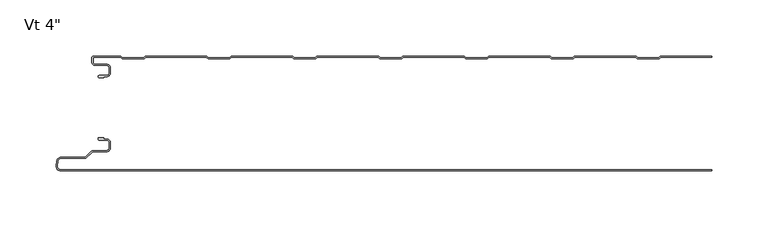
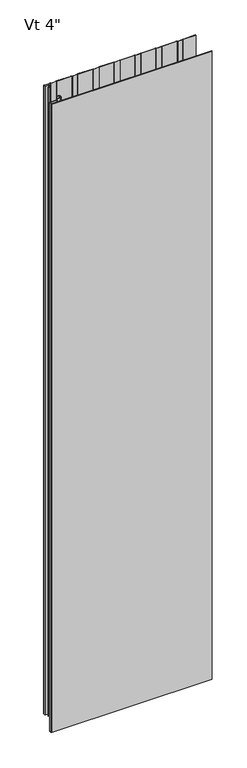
"""IFC4 building model written with IfcOpenShell, lengths in millimetres: plate geometry."""

import ifcopenshell
import ifcopenshell.guid

model = None  # the IFC model being written
_history = None  # IfcOwnerHistory: only IFC2X3 demands one
_inside = {}  # id of a spatial element -> (the spatial element, [elements in it])
_under = {}  # id of a project, library or spatial element -> (it, [spatial elements below it])
_declared = {}  # id of a project -> (the project, [libraries it declares])
_typed = {}  # id of a type object -> (the type object, [elements of that type])
_made_of = {}  # id of a material, layer set ... -> (it, [elements and type objects made of it])


def new_model(schema):
    """Start an empty IFC model of exactly this schema.

    Asked for "IFC4X3", IfcOpenShell would pick the latest addendum, in which some entities
    have other attributes; the version numbers below select the first issue.
    IFC2X3 requires an IfcOwnerHistory on every rooted entity: one is made here for all.
    """
    global model, _history
    if schema == "IFC4X3":
        model = ifcopenshell.file(schema_version=(4, 3, 0, 0))
    else:
        model = ifcopenshell.file(schema=schema)
    _inside.clear()
    _under.clear()
    _declared.clear()
    _typed.clear()
    _made_of.clear()
    _history = None
    if model.schema == "IFC2X3":
        org = make("IfcOrganization", Name="unknown")
        user = make(
            "IfcPersonAndOrganization",
            ThePerson=make("IfcPerson", FamilyName="unknown"),
            TheOrganization=org,
        )
        app = make(
            "IfcApplication",
            ApplicationDeveloper=org,
            Version="unknown",
            ApplicationFullName="unknown",
            ApplicationIdentifier="unknown",
        )
        _history = make(
            "IfcOwnerHistory",
            OwningUser=user,
            OwningApplication=app,
            ChangeAction="ADDED",
            CreationDate=0,
        )
    return model


def make(cls, **values):
    """One entity of the class cls with the attributes given. An attribute that is None is left unset."""
    return model.create_entity(
        cls, **{name: value for name, value in values.items() if value is not None}
    )


def rooted(cls, **values):
    """An entity with a GlobalId (a new one), such as an element, a storey or a relation."""
    return make(cls, GlobalId=ifcopenshell.guid.new(), OwnerHistory=_history, **values)


def si_unit(unit_type, name, prefix=None):
    """IfcSIUnit, for example si_unit("LENGTHUNIT", "METRE", prefix="MILLI")."""
    return make("IfcSIUnit", UnitType=unit_type, Prefix=prefix, Name=name)


def assignment(units):
    """IfcUnitAssignment: the units of a project."""
    return None if units is None else make("IfcUnitAssignment", Units=units)


def point(xyz):
    """IfcCartesianPoint."""
    return None if xyz is None else make("IfcCartesianPoint", Coordinates=xyz)


def direction(xyz):
    """IfcDirection."""
    return None if xyz is None else make("IfcDirection", DirectionRatios=xyz)


def frame(location, z_axis=None, x_axis=None):
    """IfcAxis2Placement3D, a coordinate frame: its origin and axes. An axis left out is left unset."""
    return make(
        "IfcAxis2Placement3D",
        Location=point(location),
        Axis=direction(z_axis),
        RefDirection=direction(x_axis),
    )


def frame_2d(location, x_axis=None):
    """IfcAxis2Placement2D, a coordinate frame in the plane: its origin and x axis."""
    return make(
        "IfcAxis2Placement2D", Location=point(location), RefDirection=direction(x_axis)
    )


def origin():
    """The frame at (0, 0, 0) with its axes left unset."""
    return frame((0.0, 0.0, 0.0))


def origin_with_axes():
    """The frame at (0, 0, 0) with the z axis (0, 0, 1) and the x axis (1, 0, 0) written out."""
    return frame((0.0, 0.0, 0.0), z_axis=(0.0, 0.0, 1.0), x_axis=(1.0, 0.0, 0.0))


def place(relative_to, where):
    """IfcLocalPlacement: puts the frame where relative to a parent placement (None: the world)."""
    return make(
        "IfcLocalPlacement", PlacementRelTo=relative_to, RelativePlacement=where
    )


def context(
    kind, dimensions, precision=None, world=None, true_north=None, identifier=None
):
    """IfcGeometricRepresentationContext, for example the 3D "Model" context."""
    return make(
        "IfcGeometricRepresentationContext",
        ContextIdentifier=identifier,
        ContextType=kind,
        CoordinateSpaceDimension=dimensions,
        Precision=precision,
        WorldCoordinateSystem=world,
        TrueNorth=true_north,
    )


def project(units=None, contexts=None):
    """IfcProject with its units and contexts."""
    return rooted(
        "IfcProject",
        Name="project",
        RepresentationContexts=contexts,
        UnitsInContext=assignment(units),
    )


def spatial(cls, under=None, at=None, **own):
    """A site, building, storey or space (cls), placed at a placement, below another one or the project."""
    s = rooted(cls, ObjectPlacement=at, **own)
    if under is not None:
        _under.setdefault(under.id(), (under, []))[1].append(s)
    return s


def polyline(points):
    """IfcPolyline through the points."""
    return make("IfcPolyline", Points=[point(p) for p in points])


def circle_curve(where, radius):
    """IfcCircle in the frame where."""
    return make("IfcCircle", Position=where, Radius=radius)


def trimmed(basis, trim1, trim2, sense, master):
    """IfcTrimmedCurve: the piece of a basis curve between two trims."""
    return make(
        "IfcTrimmedCurve",
        BasisCurve=basis,
        Trim1=trim1,
        Trim2=trim2,
        SenseAgreement=sense,
        MasterRepresentation=master,
    )


def segment(curve, same_sense, transition):
    """IfcCompositeCurveSegment."""
    return make(
        "IfcCompositeCurveSegment",
        Transition=transition,
        SameSense=same_sense,
        ParentCurve=curve,
    )


def composite_curve(segments, self_intersect=None):
    """IfcCompositeCurve: segments joined end to end."""
    return make("IfcCompositeCurve", Segments=segments, SelfIntersect=self_intersect)


def outline(outer, holes=None, kind="AREA"):
    """IfcArbitraryClosedProfileDef: a profile drawn as a closed curve; with holes, ...WithVoids."""
    if holes is None:
        return make("IfcArbitraryClosedProfileDef", ProfileType=kind, OuterCurve=outer)
    return make(
        "IfcArbitraryProfileDefWithVoids",
        ProfileType=kind,
        OuterCurve=outer,
        InnerCurves=holes,
    )


def extrude(swept, where, along, depth):
    """IfcExtrudedAreaSolid: the profile swept, set in the frame where, extruded along a direction by depth."""
    return make(
        "IfcExtrudedAreaSolid",
        SweptArea=swept,
        Position=where,
        ExtrudedDirection=direction(along),
        Depth=depth,
    )


def shape(context_of_items, identifier, shape_type, items):
    """IfcShapeRepresentation: the items that make up one representation, for example the "Body"."""
    return make(
        "IfcShapeRepresentation",
        ContextOfItems=context_of_items,
        RepresentationIdentifier=identifier,
        RepresentationType=shape_type,
        Items=items,
    )


def source(mapping_origin, context_of_items, identifier, shape_type, items):
    """IfcRepresentationMap: a shape defined once, which mapped items show again and again."""
    return make(
        "IfcRepresentationMap",
        MappingOrigin=mapping_origin,
        MappedRepresentation=shape(context_of_items, identifier, shape_type, items),
    )


def transform(
    local_origin,
    x_axis=None,
    y_axis=None,
    z_axis=None,
    scale=None,
    scale2=None,
    scale3=None,
    uniform=True,
):
    """IfcCartesianTransformationOperator3D, or its non-uniform kind. x_axis, y_axis, z_axis: its Axis1, 2, 3."""
    if uniform:
        return make(
            "IfcCartesianTransformationOperator3D",
            Axis1=direction(x_axis),
            Axis2=direction(y_axis),
            LocalOrigin=point(local_origin),
            Scale=scale,
            Axis3=direction(z_axis),
        )
    return make(
        "IfcCartesianTransformationOperator3DnonUniform",
        Axis1=direction(x_axis),
        Axis2=direction(y_axis),
        LocalOrigin=point(local_origin),
        Scale=scale,
        Axis3=direction(z_axis),
        Scale2=scale2,
        Scale3=scale3,
    )


def mapped(mapping_source, mapping_target):
    """IfcMappedItem: shows the shape of a source again, moved by a transform."""
    return make(
        "IfcMappedItem", MappingSource=mapping_source, MappingTarget=mapping_target
    )


def made_of(thing, what):
    """Note that an element or type object is made of a material, layer set ...; save() writes the relation."""
    if what is not None:
        _made_of.setdefault(what.id(), (what, []))[1].append(thing)
    return thing


def element(
    cls,
    number,
    at=None,
    inside=None,
    cuts=None,
    type_object=None,
    material=None,
    context=None,
    identifier="Body",
    shape_type=None,
    held_by="IfcProductDefinitionShape",
    body=None,
    shapes=None,
    **own,
):
    """One element of the class cls, such as IfcWall. Its Tag is "e" and its number.

    at: its placement. inside: the storey or other place that contains it. cuts: it is an
    opening in that element (IfcRelVoidsElement). A single representation is given by context,
    identifier, shape_type and body (its items); several are given by shapes. held_by: the class
    of the entity that holds the representations. save() writes the other relations.
    """
    e = rooted(cls, Tag="e%d" % number, ObjectPlacement=at, **own)
    if body is not None:
        shapes = [shape(context, identifier, shape_type, body)]
    if shapes is not None:
        e.Representation = make(held_by, Representations=shapes)
    if inside is not None:
        _inside.setdefault(inside.id(), (inside, []))[1].append(e)
    if cuts is not None:
        rooted(
            "IfcRelVoidsElement", RelatingBuildingElement=cuts, RelatedOpeningElement=e
        )
    if type_object is not None:
        _typed.setdefault(type_object.id(), (type_object, []))[1].append(e)
    return made_of(e, material)


def aggregate(whole, parts):
    """IfcRelAggregates: a whole, such as a stair, and the parts it consists of."""
    return rooted("IfcRelAggregates", RelatingObject=whole, RelatedObjects=parts)


def save(model, path):
    """Write the relations noted so far, then the file.

    IfcRelAggregates (storeys below a building ...), IfcRelContainedInSpatialStructure (elements
    in a storey), IfcRelDefinesByType, IfcRelAssociatesMaterial and IfcRelDeclares: one each for
    every whole, place, type object, material and project.
    """
    for whole, parts in _under.values():
        aggregate(whole, parts)
    for where, things in _inside.values():
        rooted(
            "IfcRelContainedInSpatialStructure",
            RelatedElements=things,
            RelatingStructure=where,
        )
    for kind, things in _typed.values():
        rooted("IfcRelDefinesByType", RelatedObjects=things, RelatingType=kind)
    for what, things in _made_of.values():
        rooted("IfcRelAssociatesMaterial", RelatedObjects=things, RelatingMaterial=what)
    for by, libraries in _declared.values():
        rooted("IfcRelDeclares", RelatingContext=by, RelatedDefinitions=libraries)
    model.write(path)


def plane_surface(at):
    """IfcPlane: the flat surface through the origin of the frame at, square to its z axis."""
    return make("IfcPlane", Position=at)


def cylinder_surface(at, radius):
    """IfcCylindricalSurface: all points at the distance radius from the z axis of the frame at."""
    return make("IfcCylindricalSurface", Position=at, Radius=radius)


def revolved_surface(curve, axis_point, axis_direction):
    """IfcSurfaceOfRevolution: the curve turned about the line through axis_point along axis_direction."""
    return make(
        "IfcSurfaceOfRevolution",
        SweptCurve=make("IfcArbitraryOpenProfileDef", ProfileType="CURVE", Curve=curve),
        AxisPosition=make("IfcAxis1Placement", Location=point(axis_point), Axis=direction(axis_direction)),
    )


def advanced_brep(points, edges, surfaces, faces):
    """IfcAdvancedBrep: a solid bounded by faces that lie on surfaces and meet in shared edges.

    An edge is (start, end): straight between two places in points (the first is 0);
    or (start, end, curve); or (start, end, curve, False) where it runs against its curve.
    A face is (place in surfaces, loops), or (place, loops, False) where it looks against
    its surface's normal. A loop lists edges by number (the first is 1), with a minus sign
    where the edge is run from its end to its start. The first loop is the outer one.
    """
    corners = [point(p) for p in points]
    vertices = [make("IfcVertexPoint", VertexGeometry=c) for c in corners]
    made = []
    for start, end, *more in edges:
        made.append(
            make(
                "IfcEdgeCurve",
                EdgeStart=vertices[start],
                EdgeEnd=vertices[end],
                EdgeGeometry=more[0] if more else make("IfcPolyline", Points=[corners[start], corners[end]]),
                SameSense=more[1] if len(more) > 1 else True,
            )
        )
    hull = []
    for where, loops, *sense in faces:
        bounds = []
        for j, loop in enumerate(loops):
            ring = [make("IfcOrientedEdge", EdgeElement=made[abs(k) - 1], Orientation=k > 0) for k in loop]
            bounds.append(
                make(
                    "IfcFaceOuterBound" if j == 0 else "IfcFaceBound",
                    Bound=make("IfcEdgeLoop", EdgeList=ring),
                    Orientation=True,
                )
            )
        hull.append(make("IfcAdvancedFace", Bounds=bounds, FaceSurface=surfaces[where], SameSense=sense[0] if sense else True))
    return make("IfcAdvancedBrep", Outer=make("IfcClosedShell", CfsFaces=hull))


def plate_67e55ae4(model_context):
    return source(origin(), model_context, "Body", "SolidModel", [
        advanced_brep(
        [(-270.768691, -17.0015159, 2400.0), (-271.7686883, -18.0015191, 2400.0), (-270.768691, -19.0015105, 2400.0), (-266.7684874, -19.0015105, 2400.0), (-266.7684874, -18.0015159, 2400.0), (-264.0762776, -18.0015159, 2400.0), (-260.7762819, -14.7015202, 2400.0), (-260.7762819, -10.301529, 2400.0), (-264.0762774, -7.0015335, 2400.0), (-274.4962563, -7.0015335, 2400.0), (-276.2662505, -5.2315393, 2400.0), (-276.2662505, -0.9999916, 2400.0), (-251.7659738, -0.9999916, 2400.0), (-250.3803312, -2.2002307, 2400.0), (-231.0051649, -2.2002307, 2400.0), (-229.619532, -1.0, 2400.0), (-175.5661166, -1.0, 2400.0), (-174.1804836, -2.2002307, 2400.0), (-154.8053173, -2.2002307, 2400.0), (-153.4196844, -1.0, 2400.0), (-99.366269, -1.0, 2400.0), (-97.980636, -2.2002307, 2400.0), (-78.6054697, -2.2002307, 2400.0), (-77.2198368, -1.0, 2400.0), (-23.1664214, -1.0, 2400.0), (-21.7807884, -2.2002307, 2400.0), (-2.4056221, -2.2002307, 2400.0), (-1.0199892, -1.0, 2400.0), (53.0334262, -1.0, 2400.0), (54.4190592, -2.2002307, 2400.0), (73.7942255, -2.2002307, 2400.0), (75.1798584, -1.0, 2400.0), (129.2332738, -1.0, 2400.0), (130.6189068, -2.2002307, 2400.0), (149.9940731, -2.2002307, 2400.0), (151.379706, -1.0, 2400.0), (205.4331214, -1.0, 2400.0), (206.8187544, -2.2002307, 2400.0), (226.1939207, -2.2002307, 2400.0), (227.5795536, -1.0, 2400.0), (272.7999998, -1.0, 2400.0), (272.7999998, 0.0, 2400.0), (227.7287048, 0.0, 2400.0), (226.8120879, -0.3417885, 2400.0), (225.8210403, -1.2002307, 2400.0), (207.1916348, -1.2002307, 2400.0), (206.2005872, -0.3417885, 2400.0), (205.2839703, 0.0, 2400.0), (151.5288572, 0.0, 2400.0), (150.6122403, -0.3417885, 2400.0), (149.6211927, -1.2002307, 2400.0), (130.9917872, -1.2002307, 2400.0), (130.0007396, -0.3417885, 2400.0), (129.0841227, 0.0, 2400.0), (75.3290096, 0.0, 2400.0), (74.4123927, -0.3417885, 2400.0), (73.4213451, -1.2002307, 2400.0), (54.7919396, -1.2002307, 2400.0), (53.800892, -0.3417885, 2400.0), (52.8842751, 0.0, 2400.0), (-0.870838, 0.0, 2400.0), (-1.7874549, -0.3417885, 2400.0), (-2.7785025, -1.2002307, 2400.0), (-21.407908, -1.2002307, 2400.0), (-22.3989556, -0.3417885, 2400.0), (-23.3155725, 0.0, 2400.0), (-77.0706856, 0.0, 2400.0), (-77.9873025, -0.3417885, 2400.0), (-78.9783501, -1.2002307, 2400.0), (-97.6077556, -1.2002307, 2400.0), (-98.5988032, -0.3417885, 2400.0), (-99.5154201, 0.0, 2400.0), (-153.2705332, 0.0, 2400.0), (-154.1871501, -0.3417885, 2400.0), (-155.1781977, -1.2002307, 2400.0), (-173.8076032, -1.2002307, 2400.0), (-174.7986508, -0.3417885, 2400.0), (-175.7152677, 0.0, 2400.0), (-229.4703808, 0.0, 2400.0), (-230.3869977, -0.3417885, 2400.0), (-231.3780453, -1.2002307, 2400.0), (-250.0074508, -1.2002307, 2400.0), (-250.9984984, -0.3417885, 2400.0), (-251.9152067, 0.0, 2400.0), (-275.8662543, 8.4e-06, 2400.0), (-277.2662505, -1.3999878, 2400.0), (-277.2662505, -5.2315393, 2400.0), (-274.4962563, -8.0015335, 2400.0), (-264.0762774, -8.0015335, 2400.0), (-261.7762819, -10.301529, 2400.0), (-261.7762819, -14.7015202, 2400.0), (-264.0762776, -17.0015159, 2400.0), (-270.768691, -17.0015159, 0.0), (-264.0762776, -17.0015159, 0.0), (-261.7762819, -14.7015202, 0.0), (-261.7762819, -10.301529, 0.0), (-264.0762774, -8.0015335, 0.0), (-274.4962563, -8.0015335, 0.0), (-277.2662505, -5.2315393, 0.0), (-277.2662505, -1.3999878, 0.0), (-275.8662543, 8.4e-06, 0.0), (-251.9151153, 8.4e-06, 0.0), (-250.9984984, -0.3417885, 0.0), (-250.0074508, -1.2002307, 0.0), (-231.3780453, -1.2002307, 0.0), (-230.3869977, -0.3417885, 0.0), (-229.4703808, 0.0, 0.0), (-175.7152677, 0.0, 0.0), (-174.7986508, -0.3417885, 0.0), (-173.8076032, -1.2002307, 0.0), (-155.1781977, -1.2002307, 0.0), (-154.1871501, -0.3417885, 0.0), (-153.2705332, 0.0, 0.0), (-99.5154201, 0.0, 0.0), (-98.5988032, -0.3417885, 0.0), (-97.6077556, -1.2002307, 0.0), (-78.9783501, -1.2002307, 0.0), (-77.9873025, -0.3417885, 0.0), (-77.0706856, 0.0, 0.0), (-23.3155725, 0.0, 0.0), (-22.3989556, -0.3417885, 0.0), (-21.407908, -1.2002307, 0.0), (-2.7785025, -1.2002307, 0.0), (-1.7874549, -0.3417885, 0.0), (-0.870838, 0.0, 0.0), (52.8842751, 0.0, 0.0), (53.800892, -0.3417885, 0.0), (54.7919396, -1.2002307, 0.0), (73.4213451, -1.2002307, 0.0), (74.4123927, -0.3417885, 0.0), (75.3290096, 0.0, 0.0), (129.0841227, 0.0, 0.0), (130.0007396, -0.3417885, 0.0), (130.9917872, -1.2002307, 0.0), (149.6211927, -1.2002307, 0.0), (150.6122403, -0.3417885, 0.0), (151.5288572, 0.0, 0.0), (205.2839703, 0.0, 0.0), (206.2005872, -0.3417885, 0.0), (207.1916348, -1.2002307, 0.0), (225.8210403, -1.2002307, 0.0), (226.8120879, -0.3417885, 0.0), (227.7287048, 0.0, 0.0), (272.7999998, 0.0, 0.0), (272.7999998, -1.0, 0.0), (227.5795536, -1.0, 0.0), (226.1939207, -2.2002307, 0.0), (206.8187544, -2.2002307, 0.0), (205.4331214, -1.0, 0.0), (151.379706, -1.0, 0.0), (149.9940731, -2.2002307, 0.0), (130.6189068, -2.2002307, 0.0), (129.2332738, -1.0, 0.0), (75.1798584, -1.0, 0.0), (73.7942255, -2.2002307, 0.0), (54.4190592, -2.2002307, 0.0), (53.0334262, -1.0, 0.0), (-1.0199892, -1.0, 0.0), (-2.4056221, -2.2002307, 0.0), (-21.7807884, -2.2002307, 0.0), (-23.1664214, -1.0, 0.0), (-77.2198368, -1.0, 0.0), (-78.6054697, -2.2002307, 0.0), (-97.980636, -2.2002307, 0.0), (-99.366269, -1.0, 0.0), (-153.4196844, -1.0, 0.0), (-154.8053173, -2.2002307, 0.0), (-174.1804836, -2.2002307, 0.0), (-175.5661166, -1.0, 0.0), (-229.619532, -1.0, 0.0), (-231.0051649, -2.2002307, 0.0), (-250.3803312, -2.2002307, 0.0), (-251.7659738, -0.9999916, 0.0), (-276.2662505, -0.9999916, 0.0), (-276.2662505, -5.2315393, 0.0), (-274.4962563, -7.0015335, 0.0), (-264.0762774, -7.0015335, 0.0), (-260.7762819, -10.301529, 0.0), (-260.7762819, -14.7015202, 0.0), (-264.0762776, -18.0015159, 0.0), (-266.7684874, -18.0015159, 0.0), (-266.7684874, -19.0015105, 0.0), (-270.768691, -19.0015105, 0.0), (-271.7686882, -18.0015192, 0.0)],
        [
            (0, 1, circle_curve(frame((-270.768691, -18.0015132, 2400.0), z_axis=(0.0, 0.0, 1.0), x_axis=(1.0, 0.0, 0.0)), 0.9999973)),
            (1, 2, circle_curve(frame((-270.768691, -18.0015133, 2400.0), z_axis=(0.0, 0.0, 1.0), x_axis=(1.0, 0.0, 0.0)), 0.9999972)),
            (2, 3),
            (3, 4),
            (4, 5),
            (5, 6, circle_curve(frame((-264.0762776, -14.7015202, 2400.0), z_axis=(0.0, 0.0, 1.0), x_axis=(1.0, 0.0, 0.0)), 3.2999957)),
            (6, 7),
            (7, 8, circle_curve(frame((-264.0762774, -10.301529, 2400.0), z_axis=(0.0, 0.0, 1.0), x_axis=(1.0, 0.0, 0.0)), 3.2999955)),
            (8, 9),
            (9, 10, circle_curve(frame((-274.4962563, -5.2315393, 2400.0), z_axis=(0.0, 0.0, -1.0), x_axis=(1.0, 0.0, 0.0)), 1.7699942)),
            (10, 11),
            (11, 12),
            (12, 13),
            (13, 14),
            (14, 15),
            (15, 16),
            (16, 17),
            (17, 18),
            (18, 19),
            (19, 20),
            (20, 21),
            (21, 22),
            (22, 23),
            (23, 24),
            (24, 25),
            (25, 26),
            (26, 27),
            (27, 28),
            (28, 29),
            (29, 30),
            (30, 31),
            (31, 32),
            (32, 33),
            (33, 34),
            (34, 35),
            (35, 36),
            (36, 37),
            (37, 38),
            (38, 39),
            (39, 40),
            (40, 41),
            (41, 42),
            (42, 43, circle_curve(frame((227.7287048, -1.3999972, 2400.0), z_axis=(0.0, 0.0, 1.0), x_axis=(1.0, 0.0, 0.0)), 1.3999972)),
            (43, 44),
            (44, 45),
            (45, 46),
            (46, 47, circle_curve(frame((205.2839703, -1.3999972, 2400.0), z_axis=(0.0, 0.0, 1.0), x_axis=(1.0, 0.0, 0.0)), 1.3999972)),
            (47, 48),
            (48, 49, circle_curve(frame((151.5288572, -1.3999972, 2400.0), z_axis=(0.0, 0.0, 1.0), x_axis=(1.0, 0.0, 0.0)), 1.3999972)),
            (49, 50),
            (50, 51),
            (51, 52),
            (52, 53, circle_curve(frame((129.0841227, -1.3999972, 2400.0), z_axis=(0.0, 0.0, 1.0), x_axis=(1.0, 0.0, 0.0)), 1.3999972)),
            (53, 54),
            (54, 55, circle_curve(frame((75.3290096, -1.3999972, 2400.0), z_axis=(0.0, 0.0, 1.0), x_axis=(1.0, 0.0, 0.0)), 1.3999972)),
            (55, 56),
            (56, 57),
            (57, 58),
            (58, 59, circle_curve(frame((52.8842751, -1.3999972, 2400.0), z_axis=(0.0, 0.0, 1.0), x_axis=(1.0, 0.0, 0.0)), 1.3999972)),
            (59, 60),
            (60, 61, circle_curve(frame((-0.870838, -1.3999972, 2400.0), z_axis=(0.0, 0.0, 1.0), x_axis=(1.0, 0.0, 0.0)), 1.3999972)),
            (61, 62),
            (62, 63),
            (63, 64),
            (64, 65, circle_curve(frame((-23.3155725, -1.3999972, 2400.0), z_axis=(0.0, 0.0, 1.0), x_axis=(1.0, 0.0, 0.0)), 1.3999972)),
            (65, 66),
            (66, 67, circle_curve(frame((-77.0706856, -1.3999972, 2400.0), z_axis=(0.0, 0.0, 1.0), x_axis=(1.0, 0.0, 0.0)), 1.3999972)),
            (67, 68),
            (68, 69),
            (69, 70),
            (70, 71, circle_curve(frame((-99.5154201, -1.3999972, 2400.0), z_axis=(0.0, 0.0, 1.0), x_axis=(1.0, 0.0, 0.0)), 1.3999972)),
            (71, 72),
            (72, 73, circle_curve(frame((-153.2705332, -1.3999972, 2400.0), z_axis=(0.0, 0.0, 1.0), x_axis=(1.0, 0.0, 0.0)), 1.3999972)),
            (73, 74),
            (74, 75),
            (75, 76),
            (76, 77, circle_curve(frame((-175.7152677, -1.3999972, 2400.0), z_axis=(0.0, 0.0, 1.0), x_axis=(1.0, 0.0, 0.0)), 1.3999972)),
            (77, 78),
            (78, 79, circle_curve(frame((-229.4703808, -1.3999972, 2400.0), z_axis=(0.0, 0.0, 1.0), x_axis=(1.0, 0.0, 0.0)), 1.3999972)),
            (79, 80),
            (80, 81),
            (81, 82),
            (82, 83, circle_curve(frame((-251.9151153, -1.3999972, 2400.0), z_axis=(0.0, 0.0, 1.0), x_axis=(1.0, 0.0, 0.0)), 1.3999972)),
            (83, 84),
            (84, 85, circle_curve(frame((-275.8662543, -1.3999878, 2400.0), z_axis=(0.0, 0.0, 1.0), x_axis=(1.0, 0.0, 0.0)), 1.3999962)),
            (85, 86),
            (86, 87, circle_curve(frame((-274.4962563, -5.2315393, 2400.0), z_axis=(0.0, 0.0, 1.0), x_axis=(1.0, 0.0, 0.0)), 2.7699942)),
            (87, 88),
            (88, 89, circle_curve(frame((-264.0762774, -10.301529, 2400.0), z_axis=(0.0, 0.0, -1.0), x_axis=(1.0, 0.0, 0.0)), 2.2999955)),
            (89, 90),
            (90, 91, circle_curve(frame((-264.0762776, -14.7015202, 2400.0), z_axis=(0.0, 0.0, -1.0), x_axis=(1.0, 0.0, 0.0)), 2.2999957)),
            (91, 0),
            (92, 93),
            (93, 94, circle_curve(frame((-264.0762776, -14.7015202, 0.0), z_axis=(0.0, 0.0, 1.0), x_axis=(1.0, 0.0, 0.0)), 2.2999957)),
            (94, 95),
            (95, 96, circle_curve(frame((-264.0762774, -10.301529, 0.0), z_axis=(0.0, 0.0, 1.0), x_axis=(1.0, 0.0, 0.0)), 2.2999955)),
            (96, 97),
            (97, 98, circle_curve(frame((-274.4962563, -5.2315393, 0.0), z_axis=(0.0, 0.0, -1.0), x_axis=(1.0, 0.0, 0.0)), 2.7699942)),
            (98, 99),
            (99, 100, circle_curve(frame((-275.8662543, -1.3999878, 0.0), z_axis=(0.0, 0.0, -1.0), x_axis=(1.0, 0.0, 0.0)), 1.3999962)),
            (100, 101),
            (101, 102, circle_curve(frame((-251.9151153, -1.3999972, 0.0), z_axis=(0.0, 0.0, -1.0), x_axis=(1.0, 0.0, 0.0)), 1.3999972)),
            (102, 103),
            (103, 104),
            (104, 105),
            (105, 106, circle_curve(frame((-229.4703808, -1.3999972, 0.0), z_axis=(0.0, 0.0, -1.0), x_axis=(1.0, 0.0, 0.0)), 1.3999972)),
            (106, 107),
            (107, 108, circle_curve(frame((-175.7152677, -1.3999972, 0.0), z_axis=(0.0, 0.0, -1.0), x_axis=(1.0, 0.0, 0.0)), 1.3999972)),
            (108, 109),
            (109, 110),
            (110, 111),
            (111, 112, circle_curve(frame((-153.2705332, -1.3999972, 0.0), z_axis=(0.0, 0.0, -1.0), x_axis=(1.0, 0.0, 0.0)), 1.3999972)),
            (112, 113),
            (113, 114, circle_curve(frame((-99.5154201, -1.3999972, 0.0), z_axis=(0.0, 0.0, -1.0), x_axis=(1.0, 0.0, 0.0)), 1.3999972)),
            (114, 115),
            (115, 116),
            (116, 117),
            (117, 118, circle_curve(frame((-77.0706856, -1.3999972, 0.0), z_axis=(0.0, 0.0, -1.0), x_axis=(1.0, 0.0, 0.0)), 1.3999972)),
            (118, 119),
            (119, 120, circle_curve(frame((-23.3155725, -1.3999972, 0.0), z_axis=(0.0, 0.0, -1.0), x_axis=(1.0, 0.0, 0.0)), 1.3999972)),
            (120, 121),
            (121, 122),
            (122, 123),
            (123, 124, circle_curve(frame((-0.870838, -1.3999972, 0.0), z_axis=(0.0, 0.0, -1.0), x_axis=(1.0, 0.0, 0.0)), 1.3999972)),
            (124, 125),
            (125, 126, circle_curve(frame((52.8842751, -1.3999972, 0.0), z_axis=(0.0, 0.0, -1.0), x_axis=(1.0, 0.0, 0.0)), 1.3999972)),
            (126, 127),
            (127, 128),
            (128, 129),
            (129, 130, circle_curve(frame((75.3290096, -1.3999972, 0.0), z_axis=(0.0, 0.0, -1.0), x_axis=(1.0, 0.0, 0.0)), 1.3999972)),
            (130, 131),
            (131, 132, circle_curve(frame((129.0841227, -1.3999972, 0.0), z_axis=(0.0, 0.0, -1.0), x_axis=(1.0, 0.0, 0.0)), 1.3999972)),
            (132, 133),
            (133, 134),
            (134, 135),
            (135, 136, circle_curve(frame((151.5288572, -1.3999972, 0.0), z_axis=(0.0, 0.0, -1.0), x_axis=(1.0, 0.0, 0.0)), 1.3999972)),
            (136, 137),
            (137, 138, circle_curve(frame((205.2839703, -1.3999972, 0.0), z_axis=(0.0, 0.0, -1.0), x_axis=(1.0, 0.0, 0.0)), 1.3999972)),
            (138, 139),
            (139, 140),
            (140, 141),
            (141, 142, circle_curve(frame((227.7287048, -1.3999972, 0.0), z_axis=(0.0, 0.0, -1.0), x_axis=(1.0, 0.0, 0.0)), 1.3999972)),
            (142, 143),
            (143, 144),
            (144, 145),
            (145, 146),
            (146, 147),
            (147, 148),
            (148, 149),
            (149, 150),
            (150, 151),
            (151, 152),
            (152, 153),
            (153, 154),
            (154, 155),
            (155, 156),
            (156, 157),
            (157, 158),
            (158, 159),
            (159, 160),
            (160, 161),
            (161, 162),
            (162, 163),
            (163, 164),
            (164, 165),
            (165, 166),
            (166, 167),
            (167, 168),
            (168, 169),
            (169, 170),
            (170, 171),
            (171, 172),
            (172, 173),
            (173, 174),
            (174, 175, circle_curve(frame((-274.4962563, -5.2315393, 0.0), z_axis=(0.0, 0.0, 1.0), x_axis=(1.0, 0.0, 0.0)), 1.7699942)),
            (175, 176),
            (176, 177, circle_curve(frame((-264.0762774, -10.301529, 0.0), z_axis=(0.0, 0.0, -1.0), x_axis=(1.0, 0.0, 0.0)), 3.2999955)),
            (177, 178),
            (178, 179, circle_curve(frame((-264.0762776, -14.7015202, 0.0), z_axis=(0.0, 0.0, -1.0), x_axis=(1.0, 0.0, 0.0)), 3.2999957)),
            (179, 180),
            (180, 181),
            (181, 182),
            (182, 183, circle_curve(frame((-270.768691, -18.0015133, 0.0), z_axis=(0.0, 0.0, -1.0), x_axis=(1.0, 0.0, 0.0)), 0.9999972)),
            (183, 92, circle_curve(frame((-270.768691, -18.0015132, 0.0), z_axis=(0.0, 0.0, -1.0), x_axis=(1.0, 0.0, 0.0)), 0.9999973)),
            (91, 93),
            (92, 0),
            (90, 94),
            (89, 95),
            (88, 96),
            (87, 97),
            (86, 98),
            (85, 99),
            (84, 100),
            (83, 101),
            (10, 174),
            (173, 11),
            (9, 175),
            (8, 176),
            (7, 177),
            (6, 178),
            (5, 179),
            (4, 180),
            (3, 181),
            (2, 182),
            (1, 183),
            (40, 144),
            (143, 41),
            (82, 102),
            (81, 103),
            (80, 104),
            (79, 105),
            (78, 106),
            (77, 107),
            (76, 108),
            (75, 109),
            (74, 110),
            (73, 111),
            (72, 112),
            (71, 113),
            (70, 114),
            (69, 115),
            (68, 116),
            (67, 117),
            (66, 118),
            (65, 119),
            (64, 120),
            (63, 121),
            (62, 122),
            (61, 123),
            (60, 124),
            (59, 125),
            (58, 126),
            (57, 127),
            (56, 128),
            (55, 129),
            (54, 130),
            (53, 131),
            (52, 132),
            (51, 133),
            (50, 134),
            (49, 135),
            (48, 136),
            (47, 137),
            (46, 138),
            (45, 139),
            (44, 140),
            (43, 141),
            (42, 142),
            (39, 145),
            (38, 146),
            (37, 147),
            (36, 148),
            (35, 149),
            (34, 150),
            (33, 151),
            (32, 152),
            (31, 153),
            (30, 154),
            (29, 155),
            (28, 156),
            (27, 157),
            (26, 158),
            (25, 159),
            (24, 160),
            (23, 161),
            (22, 162),
            (21, 163),
            (20, 164),
            (19, 165),
            (18, 166),
            (17, 167),
            (16, 168),
            (15, 169),
            (14, 170),
            (13, 171),
            (12, 172),
        ],
        [
            plane_surface(frame((184.4000002, 0.0, 2400.0), z_axis=(0.0, 0.0, 1.0), x_axis=(0.0, 1.0, 0.0))),
            plane_surface(frame((184.4000002, 0.0, 0.0), z_axis=(0.0, 0.0, -1.0), x_axis=(0.0, 1.0, 0.0))),
            plane_surface(frame((-270.768691, -17.0015159, 2400.0), z_axis=(0.0, 1.0, 0.0), x_axis=(0.0, 0.0, -1.0))),
            revolved_surface(polyline([(-261.7762819, -14.7015202, 0.0), (-261.7762819, -14.7015202, 2400.0)]), (-264.0762776, -14.7015202, 2400.0), (0.0, 0.0, -1.0)),
            plane_surface(frame((-261.7762819, -14.7015202, 2400.0), z_axis=(-1.0, 0.0, 0.0), x_axis=(0.0, 0.0, -1.0))),
            revolved_surface(polyline([(-261.77628189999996, -10.301529, 0.0), (-261.77628189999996, -10.301529, 2400.0)]), (-264.0762774, -10.301529, 2400.0), (0.0, 0.0, -1.0)),
            plane_surface(frame((-264.0762774, -8.0015335, 2400.0), z_axis=(0.0, -1.0, 0.0), x_axis=(0.0, 0.0, -1.0))),
            cylinder_surface(frame((-274.4962563, -5.2315393, 2400.0), z_axis=(0.0, 0.0, 1.0), x_axis=(1.0, 0.0, 0.0)), 2.7699942),
            plane_surface(frame((-277.2662505, -5.2315393, 2400.0), z_axis=(-1.0, 0.0, 0.0), x_axis=(0.0, 0.0, -1.0))),
            cylinder_surface(frame((-275.8662543, -1.3999878, 2400.0), z_axis=(0.0, 0.0, 1.0), x_axis=(1.0, 0.0, 0.0)), 1.3999962),
            plane_surface(frame((-275.8662543, 8.4e-06, 2400.0), z_axis=(0.0, 1.0, 0.0), x_axis=(0.0, 0.0, -1.0))),
            plane_surface(frame((-276.2662505, -0.9999916, 2400.0), z_axis=(1.0, 0.0, 0.0), x_axis=(0.0, 0.0, -1.0))),
            revolved_surface(polyline([(-272.72626210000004, -5.2315393, 0.0), (-272.72626210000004, -5.2315393, 2400.0)]), (-274.4962563, -5.2315393, 2400.0), (0.0, 0.0, -1.0)),
            plane_surface(frame((-274.4962563, -7.0015335, 2400.0), z_axis=(0.0, 1.0, 0.0), x_axis=(0.0, 0.0, -1.0))),
            cylinder_surface(frame((-264.0762774, -10.301529, 2400.0), z_axis=(0.0, 0.0, 1.0), x_axis=(1.0, 0.0, 0.0)), 3.2999955),
            plane_surface(frame((-260.7762819, -10.301529, 2400.0), z_axis=(1.0, 0.0, 0.0), x_axis=(0.0, 0.0, -1.0))),
            cylinder_surface(frame((-264.0762776, -14.7015202, 2400.0), z_axis=(0.0, 0.0, 1.0), x_axis=(1.0, 0.0, 0.0)), 3.2999957),
            plane_surface(frame((-264.0762776, -18.0015159, 2400.0), z_axis=(0.0, -1.0, 0.0), x_axis=(0.0, 0.0, -1.0))),
            plane_surface(frame((-266.7684874, -18.0015159, 2400.0), z_axis=(1.0, 0.0, 0.0), x_axis=(0.0, 0.0, -1.0))),
            plane_surface(frame((-266.7684874, -19.0015105, 2400.0), z_axis=(0.0, -1.0, 0.0), x_axis=(0.0, 0.0, -1.0))),
            cylinder_surface(frame((-270.768691, -18.0015133, 2400.0), z_axis=(0.0, 0.0, 1.0), x_axis=(1.0, 0.0, 0.0)), 0.9999972),
            cylinder_surface(frame((-270.768691, -18.0015132, 2400.0), z_axis=(0.0, 0.0, 1.0), x_axis=(1.0, 0.0, 0.0)), 0.9999973),
            plane_surface(frame((272.7999998, -111.6, 2400.0), z_axis=(1.0, 0.0, 0.0), x_axis=(0.0, 0.0, -1.0))),
            cylinder_surface(frame((-251.9151153, -1.3999972, 2400.0), z_axis=(0.0, 0.0, 1.0), x_axis=(1.0, 0.0, 0.0)), 1.3999972),
            plane_surface(frame((-250.9984984, -0.3417885, 2400.0), z_axis=(0.6547276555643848, 0.7558648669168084, 0.0), x_axis=(0.0, 0.0, -1.0))),
            plane_surface(frame((-240.6927481, -1.2002307, 2400.0), z_axis=(0.0, 1.0, 0.0), x_axis=(0.0, 0.0, -1.0))),
            plane_surface(frame((-231.3780453, -1.2002307, 2400.0), z_axis=(-0.6547276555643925, 0.7558648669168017, 0.0), x_axis=(0.0, 0.0, -1.0))),
            cylinder_surface(frame((-229.4703808, -1.3999972, 2400.0), z_axis=(0.0, 0.0, 1.0), x_axis=(1.0, 0.0, 0.0)), 1.3999972),
            plane_surface(frame((-229.4703808, 0.0, 2400.0), z_axis=(0.0, 1.0, 0.0), x_axis=(0.0, 0.0, -1.0))),
            cylinder_surface(frame((-175.7152677, -1.3999972, 2400.0), z_axis=(0.0, 0.0, 1.0), x_axis=(1.0, 0.0, 0.0)), 1.3999972),
            plane_surface(frame((-174.7986508, -0.3417885, 2400.0), z_axis=(0.6547276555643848, 0.7558648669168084, 0.0), x_axis=(0.0, 0.0, -1.0))),
            plane_surface(frame((-164.4929005, -1.2002307, 2400.0), z_axis=(0.0, 1.0, 0.0), x_axis=(0.0, 0.0, -1.0))),
            plane_surface(frame((-155.1781977, -1.2002307, 2400.0), z_axis=(-0.6547276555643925, 0.7558648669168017, 0.0), x_axis=(0.0, 0.0, -1.0))),
            cylinder_surface(frame((-153.2705332, -1.3999972, 2400.0), z_axis=(0.0, 0.0, 1.0), x_axis=(1.0, 0.0, 0.0)), 1.3999972),
            plane_surface(frame((-153.2705332, 0.0, 2400.0), z_axis=(0.0, 1.0, 0.0), x_axis=(0.0, 0.0, -1.0))),
            cylinder_surface(frame((-99.5154201, -1.3999972, 2400.0), z_axis=(0.0, 0.0, 1.0), x_axis=(1.0, 0.0, 0.0)), 1.3999972),
            plane_surface(frame((-98.5988032, -0.3417885, 2400.0), z_axis=(0.6547276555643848, 0.7558648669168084, 0.0), x_axis=(0.0, 0.0, -1.0))),
            plane_surface(frame((-88.2930529, -1.2002307, 2400.0), z_axis=(0.0, 1.0, 0.0), x_axis=(0.0, 0.0, -1.0))),
            plane_surface(frame((-78.9783501, -1.2002307, 2400.0), z_axis=(-0.6547276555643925, 0.7558648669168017, 0.0), x_axis=(0.0, 0.0, -1.0))),
            cylinder_surface(frame((-77.0706856, -1.3999972, 2400.0), z_axis=(0.0, 0.0, 1.0), x_axis=(1.0, 0.0, 0.0)), 1.3999972),
            plane_surface(frame((-77.0706856, 0.0, 2400.0), z_axis=(0.0, 1.0, 0.0), x_axis=(0.0, 0.0, -1.0))),
            cylinder_surface(frame((-23.3155725, -1.3999972, 2400.0), z_axis=(0.0, 0.0, 1.0), x_axis=(1.0, 0.0, 0.0)), 1.3999972),
            plane_surface(frame((-22.3989556, -0.3417885, 2400.0), z_axis=(0.6547276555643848, 0.7558648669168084, 0.0), x_axis=(0.0, 0.0, -1.0))),
            plane_surface(frame((-12.0932053, -1.2002307, 2400.0), z_axis=(0.0, 1.0, 0.0), x_axis=(0.0, 0.0, -1.0))),
            plane_surface(frame((-2.7785025, -1.2002307, 2400.0), z_axis=(-0.6547276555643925, 0.7558648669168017, 0.0), x_axis=(0.0, 0.0, -1.0))),
            cylinder_surface(frame((-0.870838, -1.3999972, 2400.0), z_axis=(0.0, 0.0, 1.0), x_axis=(1.0, 0.0, 0.0)), 1.3999972),
            plane_surface(frame((-0.870838, 0.0, 2400.0), z_axis=(0.0, 1.0, 0.0), x_axis=(0.0, 0.0, -1.0))),
            cylinder_surface(frame((52.8842751, -1.3999972, 2400.0), z_axis=(0.0, 0.0, 1.0), x_axis=(1.0, 0.0, 0.0)), 1.3999972),
            plane_surface(frame((53.800892, -0.3417885, 2400.0), z_axis=(0.6547276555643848, 0.7558648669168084, 0.0), x_axis=(0.0, 0.0, -1.0))),
            plane_surface(frame((64.1066423, -1.2002307, 2400.0), z_axis=(0.0, 1.0, 0.0), x_axis=(0.0, 0.0, -1.0))),
            plane_surface(frame((73.4213451, -1.2002307, 2400.0), z_axis=(-0.6547276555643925, 0.7558648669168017, 0.0), x_axis=(0.0, 0.0, -1.0))),
            cylinder_surface(frame((75.3290096, -1.3999972, 2400.0), z_axis=(0.0, 0.0, 1.0), x_axis=(1.0, 0.0, 0.0)), 1.3999972),
            plane_surface(frame((75.3290096, 0.0, 2400.0), z_axis=(0.0, 1.0, 0.0), x_axis=(0.0, 0.0, -1.0))),
            cylinder_surface(frame((129.0841227, -1.3999972, 2400.0), z_axis=(0.0, 0.0, 1.0), x_axis=(1.0, 0.0, 0.0)), 1.3999972),
            plane_surface(frame((130.0007396, -0.3417885, 2400.0), z_axis=(0.6547276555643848, 0.7558648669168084, 0.0), x_axis=(0.0, 0.0, -1.0))),
            plane_surface(frame((140.3064899, -1.2002307, 2400.0), z_axis=(0.0, 1.0, 0.0), x_axis=(0.0, 0.0, -1.0))),
            plane_surface(frame((149.6211927, -1.2002307, 2400.0), z_axis=(-0.6547276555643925, 0.7558648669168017, 0.0), x_axis=(0.0, 0.0, -1.0))),
            cylinder_surface(frame((151.5288572, -1.3999972, 2400.0), z_axis=(0.0, 0.0, 1.0), x_axis=(1.0, 0.0, 0.0)), 1.3999972),
            plane_surface(frame((151.5288572, 0.0, 2400.0), z_axis=(0.0, 1.0, 0.0), x_axis=(0.0, 0.0, -1.0))),
            cylinder_surface(frame((205.2839703, -1.3999972, 2400.0), z_axis=(0.0, 0.0, 1.0), x_axis=(1.0, 0.0, 0.0)), 1.3999972),
            plane_surface(frame((206.2005872, -0.3417885, 2400.0), z_axis=(0.6547276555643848, 0.7558648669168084, 0.0), x_axis=(0.0, 0.0, -1.0))),
            plane_surface(frame((216.5063375, -1.2002307, 2400.0), z_axis=(0.0, 1.0, 0.0), x_axis=(0.0, 0.0, -1.0))),
            plane_surface(frame((225.8210403, -1.2002307, 2400.0), z_axis=(-0.6547276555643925, 0.7558648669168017, 0.0), x_axis=(0.0, 0.0, -1.0))),
            cylinder_surface(frame((227.7287048, -1.3999972, 2400.0), z_axis=(0.0, 0.0, 1.0), x_axis=(1.0, 0.0, 0.0)), 1.3999972),
            plane_surface(frame((227.7287048, 0.0, 2400.0), z_axis=(0.0, 1.0, 0.0), x_axis=(0.0, 0.0, -1.0))),
            plane_surface(frame((281.632969, -1.0, 2400.0), z_axis=(0.0, -1.0, 0.0), x_axis=(0.0, 0.0, -1.0))),
            plane_surface(frame((227.5795536, -1.0, 2400.0), z_axis=(0.6547276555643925, -0.7558648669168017, 0.0), x_axis=(0.0, 0.0, -1.0))),
            plane_surface(frame((226.1939207, -2.2002307, 2400.0), z_axis=(0.0, -1.0, 0.0), x_axis=(0.0, 0.0, -1.0))),
            plane_surface(frame((206.8187544, -2.2002307, 2400.0), z_axis=(-0.6547276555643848, -0.7558648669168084, 0.0), x_axis=(0.0, 0.0, -1.0))),
            plane_surface(frame((205.4331214, -1.0, 2400.0), z_axis=(0.0, -1.0, 0.0), x_axis=(0.0, 0.0, -1.0))),
            plane_surface(frame((151.379706, -1.0, 2400.0), z_axis=(0.6547276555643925, -0.7558648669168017, 0.0), x_axis=(0.0, 0.0, -1.0))),
            plane_surface(frame((149.9940731, -2.2002307, 2400.0), z_axis=(0.0, -1.0, 0.0), x_axis=(0.0, 0.0, -1.0))),
            plane_surface(frame((130.6189068, -2.2002307, 2400.0), z_axis=(-0.6547276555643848, -0.7558648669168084, 0.0), x_axis=(0.0, 0.0, -1.0))),
            plane_surface(frame((129.2332738, -1.0, 2400.0), z_axis=(0.0, -1.0, 0.0), x_axis=(0.0, 0.0, -1.0))),
            plane_surface(frame((75.1798584, -1.0, 2400.0), z_axis=(0.6547276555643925, -0.7558648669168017, 0.0), x_axis=(0.0, 0.0, -1.0))),
            plane_surface(frame((73.7942255, -2.2002307, 2400.0), z_axis=(0.0, -1.0, 0.0), x_axis=(0.0, 0.0, -1.0))),
            plane_surface(frame((54.4190592, -2.2002307, 2400.0), z_axis=(-0.6547276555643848, -0.7558648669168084, 0.0), x_axis=(0.0, 0.0, -1.0))),
            plane_surface(frame((53.0334262, -1.0, 2400.0), z_axis=(0.0, -1.0, 0.0), x_axis=(0.0, 0.0, -1.0))),
            plane_surface(frame((-1.0199892, -1.0, 2400.0), z_axis=(0.6547276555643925, -0.7558648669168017, 0.0), x_axis=(0.0, 0.0, -1.0))),
            plane_surface(frame((-2.4056221, -2.2002307, 2400.0), z_axis=(0.0, -1.0, 0.0), x_axis=(0.0, 0.0, -1.0))),
            plane_surface(frame((-21.7807884, -2.2002307, 2400.0), z_axis=(-0.6547276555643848, -0.7558648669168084, 0.0), x_axis=(0.0, 0.0, -1.0))),
            plane_surface(frame((-23.1664214, -1.0, 2400.0), z_axis=(0.0, -1.0, 0.0), x_axis=(0.0, 0.0, -1.0))),
            plane_surface(frame((-77.2198368, -1.0, 2400.0), z_axis=(0.6547276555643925, -0.7558648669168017, 0.0), x_axis=(0.0, 0.0, -1.0))),
            plane_surface(frame((-78.6054697, -2.2002307, 2400.0), z_axis=(0.0, -1.0, 0.0), x_axis=(0.0, 0.0, -1.0))),
            plane_surface(frame((-97.980636, -2.2002307, 2400.0), z_axis=(-0.6547276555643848, -0.7558648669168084, 0.0), x_axis=(0.0, 0.0, -1.0))),
            plane_surface(frame((-99.366269, -1.0, 2400.0), z_axis=(0.0, -1.0, 0.0), x_axis=(0.0, 0.0, -1.0))),
            plane_surface(frame((-153.4196844, -1.0, 2400.0), z_axis=(0.6547276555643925, -0.7558648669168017, 0.0), x_axis=(0.0, 0.0, -1.0))),
            plane_surface(frame((-154.8053173, -2.2002307, 2400.0), z_axis=(0.0, -1.0, 0.0), x_axis=(0.0, 0.0, -1.0))),
            plane_surface(frame((-174.1804836, -2.2002307, 2400.0), z_axis=(-0.6547276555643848, -0.7558648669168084, 0.0), x_axis=(0.0, 0.0, -1.0))),
            plane_surface(frame((-175.5661166, -1.0, 2400.0), z_axis=(0.0, -1.0, 0.0), x_axis=(0.0, 0.0, -1.0))),
            plane_surface(frame((-229.619532, -1.0, 2400.0), z_axis=(0.6547276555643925, -0.7558648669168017, 0.0), x_axis=(0.0, 0.0, -1.0))),
            plane_surface(frame((-231.0051649, -2.2002307, 2400.0), z_axis=(0.0, -1.0, 0.0), x_axis=(0.0, 0.0, -1.0))),
            plane_surface(frame((-250.3803312, -2.2002307, 2400.0), z_axis=(-0.6547276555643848, -0.7558648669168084, 0.0), x_axis=(0.0, 0.0, -1.0))),
            plane_surface(frame((-251.7659738, -0.9999916, 2400.0), z_axis=(0.0, -1.0, 0.0), x_axis=(0.0, 0.0, -1.0))),
        ],
        [
            (0, [[1, 2, 3, 4, 5, 6, 7, 8, 9, 10, 11, 12, 13, 14, 15, 16, 17, 18, 19, 20, 21, 22, 23, 24, 25, 26, 27, 28, 29, 30, 31, 32, 33, 34, 35, 36, 37, 38, 39, 40, 41, 42, 43, 44, 45, 46, 47, 48, 49, 50, 51, 52, 53, 54, 55, 56, 57, 58, 59, 60, 61, 62, 63, 64, 65, 66, 67, 68, 69, 70, 71, 72, 73, 74, 75, 76, 77, 78, 79, 80, 81, 82, 83, 84, 85, 86, 87, 88, 89, 90, 91, 92]]),
            (1, [[93, 94, 95, 96, 97, 98, 99, 100, 101, 102, 103, 104, 105, 106, 107, 108, 109, 110, 111, 112, 113, 114, 115, 116, 117, 118, 119, 120, 121, 122, 123, 124, 125, 126, 127, 128, 129, 130, 131, 132, 133, 134, 135, 136, 137, 138, 139, 140, 141, 142, 143, 144, 145, 146, 147, 148, 149, 150, 151, 152, 153, 154, 155, 156, 157, 158, 159, 160, 161, 162, 163, 164, 165, 166, 167, 168, 169, 170, 171, 172, 173, 174, 175, 176, 177, 178, 179, 180, 181, 182, 183, 184]]),
            (2, [[185, -93, 186, -92]]),
            (3, [[187, -94, -185, -91]]),
            (4, [[188, -95, -187, -90]]),
            (5, [[189, -96, -188, -89]]),
            (6, [[190, -97, -189, -88]]),
            (7, [[191, -98, -190, -87]]),
            (8, [[192, -99, -191, -86]]),
            (9, [[193, -100, -192, -85]]),
            (10, [[194, -101, -193, -84]]),
            (11, [[195, -174, 196, -11]]),
            (12, [[197, -175, -195, -10]]),
            (13, [[198, -176, -197, -9]]),
            (14, [[199, -177, -198, -8]]),
            (15, [[200, -178, -199, -7]]),
            (16, [[201, -179, -200, -6]]),
            (17, [[202, -180, -201, -5]]),
            (18, [[203, -181, -202, -4]]),
            (19, [[204, -182, -203, -3]]),
            (20, [[205, -183, -204, -2]]),
            (21, [[-186, -184, -205, -1]]),
            (22, [[206, -144, 207, -41]]),
            (23, [[208, -102, -194, -83]]),
            (24, [[209, -103, -208, -82]]),
            (25, [[210, -104, -209, -81]]),
            (26, [[211, -105, -210, -80]]),
            (27, [[212, -106, -211, -79]]),
            (28, [[213, -107, -212, -78]]),
            (29, [[214, -108, -213, -77]]),
            (30, [[215, -109, -214, -76]]),
            (31, [[216, -110, -215, -75]]),
            (32, [[217, -111, -216, -74]]),
            (33, [[218, -112, -217, -73]]),
            (34, [[219, -113, -218, -72]]),
            (35, [[220, -114, -219, -71]]),
            (36, [[221, -115, -220, -70]]),
            (37, [[222, -116, -221, -69]]),
            (38, [[223, -117, -222, -68]]),
            (39, [[224, -118, -223, -67]]),
            (40, [[225, -119, -224, -66]]),
            (41, [[226, -120, -225, -65]]),
            (42, [[227, -121, -226, -64]]),
            (43, [[228, -122, -227, -63]]),
            (44, [[229, -123, -228, -62]]),
            (45, [[230, -124, -229, -61]]),
            (46, [[231, -125, -230, -60]]),
            (47, [[232, -126, -231, -59]]),
            (48, [[233, -127, -232, -58]]),
            (49, [[234, -128, -233, -57]]),
            (50, [[235, -129, -234, -56]]),
            (51, [[236, -130, -235, -55]]),
            (52, [[237, -131, -236, -54]]),
            (53, [[238, -132, -237, -53]]),
            (54, [[239, -133, -238, -52]]),
            (55, [[240, -134, -239, -51]]),
            (56, [[241, -135, -240, -50]]),
            (57, [[242, -136, -241, -49]]),
            (58, [[243, -137, -242, -48]]),
            (59, [[244, -138, -243, -47]]),
            (60, [[245, -139, -244, -46]]),
            (61, [[246, -140, -245, -45]]),
            (62, [[247, -141, -246, -44]]),
            (63, [[248, -142, -247, -43]]),
            (64, [[-42, -207, -143, -248]]),
            (65, [[-145, -206, -40, 249]]),
            (66, [[250, -146, -249, -39]]),
            (67, [[251, -147, -250, -38]]),
            (68, [[252, -148, -251, -37]]),
            (69, [[253, -149, -252, -36]]),
            (70, [[254, -150, -253, -35]]),
            (71, [[255, -151, -254, -34]]),
            (72, [[256, -152, -255, -33]]),
            (73, [[257, -153, -256, -32]]),
            (74, [[258, -154, -257, -31]]),
            (75, [[259, -155, -258, -30]]),
            (76, [[260, -156, -259, -29]]),
            (77, [[261, -157, -260, -28]]),
            (78, [[262, -158, -261, -27]]),
            (79, [[263, -159, -262, -26]]),
            (80, [[264, -160, -263, -25]]),
            (81, [[265, -161, -264, -24]]),
            (82, [[266, -162, -265, -23]]),
            (83, [[267, -163, -266, -22]]),
            (84, [[268, -164, -267, -21]]),
            (85, [[269, -165, -268, -20]]),
            (86, [[270, -166, -269, -19]]),
            (87, [[271, -167, -270, -18]]),
            (88, [[272, -168, -271, -17]]),
            (89, [[273, -169, -272, -16]]),
            (90, [[274, -170, -273, -15]]),
            (91, [[275, -171, -274, -14]]),
            (92, [[276, -172, -275, -13]]),
            (93, [[-196, -173, -276, -12]]),
        ],
    ),
        extrude(outline(composite_curve([segment(polyline([(-308.808759, -97.7184578), (-308.3690674, -92.6944437)]), True, "CONTINUOUS"), segment(trimmed(circle_curve(frame_2d((-304.7198391, -93.3052448)), 3.6999926), [point((-308.3690674, -92.6944437))], [point((-304.7198391, -89.6052522))], False, "CARTESIAN"), True, "CONTINUOUS"), segment(polyline([(-304.7198391, -89.6052522), (-283.5773995, -89.6052522)]), True, "CONTINUOUS"), segment(trimmed(circle_curve(frame_2d((-283.5773995, -88.3052548)), 1.2999974), [point((-283.5773995, -89.6052522))], [point((-282.6581626, -89.2244918))], True, "CARTESIAN"), True, "CONTINUOUS"), segment(polyline([(-282.6581626, -89.2244918), (-277.8297451, -84.3960743)]), True, "CONTINUOUS"), segment(trimmed(circle_curve(frame_2d((-275.9205606, -86.3052588)), 2.6999946), [point((-277.8297451, -84.3960743))], [point((-275.9205606, -83.6052642))], False, "CARTESIAN"), True, "CONTINUOUS"), segment(polyline([(-275.9205606, -83.6052642), (-264.1096715, -83.6052642)]), True, "CONTINUOUS"), segment(trimmed(circle_curve(frame_2d((-264.1096715, -81.2552689)), 2.3499953), [point((-264.1096715, -83.6052642))], [point((-261.7596762, -81.2552689))], True, "CARTESIAN"), True, "CONTINUOUS"), segment(polyline([(-261.7596762, -81.2552689), (-261.7596762, -76.8552777)]), True, "CONTINUOUS"), segment(trimmed(circle_curve(frame_2d((-264.1096715, -76.8552777)), 2.3499953), [point((-261.7596762, -76.8552777))], [point((-264.1096715, -74.5052824))], True, "CARTESIAN"), True, "CONTINUOUS"), segment(polyline([(-264.1096715, -74.5052824), (-270.6289777, -74.5052824)]), True, "CONTINUOUS"), segment(trimmed(circle_curve(frame_2d((-270.5686906, -73.3068002)), 1.1999976), [point((-270.6289777, -74.5052824))], [point((-271.7683, -73.2762782))], False, "CARTESIAN"), True, "CONTINUOUS"), segment(trimmed(circle_curve(frame_2d((-270.5686906, -73.3068002)), 1.1999976), [point((-271.7683, -73.2762782))], [point((-270.567176, -72.1068035))], False, "CARTESIAN"), True, "CONTINUOUS"), segment(polyline([(-270.567176, -72.1068035), (-266.8087826, -72.1068035), (-266.8087826, -73.5052824), (-264.1096715, -73.5052824)]), True, "CONTINUOUS"), segment(trimmed(circle_curve(frame_2d((-264.1096715, -76.8552777)), 3.3499953), [point((-264.1096715, -73.5052824))], [point((-260.7596762, -76.8552777))], False, "CARTESIAN"), True, "CONTINUOUS"), segment(polyline([(-260.7596762, -76.8552777), (-260.7596762, -81.2552689)]), True, "CONTINUOUS"), segment(trimmed(circle_curve(frame_2d((-264.1096715, -81.2552689)), 3.3499953), [point((-260.7596762, -81.2552689))], [point((-264.1096715, -84.6052642))], False, "CARTESIAN"), True, "CONTINUOUS"), segment(polyline([(-264.1096715, -84.6052642), (-275.9205606, -84.6052642)]), True, "CONTINUOUS"), segment(trimmed(circle_curve(frame_2d((-275.9205606, -86.3052588)), 1.6999946), [point((-275.9205606, -84.6052642))], [point((-277.1226383, -85.1031811))], True, "CARTESIAN"), True, "CONTINUOUS"), segment(polyline([(-277.1226383, -85.1031811), (-282.6247094, -90.6052522), (-304.7198391, -90.6052522)]), True, "CONTINUOUS"), segment(trimmed(circle_curve(frame_2d((-304.7198391, -93.3052448)), 2.6999926), [point((-304.7198391, -90.6052522))], [point((-307.3765707, -92.8238542))], True, "CARTESIAN"), True, "CONTINUOUS"), segment(polyline([(-307.3765707, -92.8238542), (-307.8125697, -97.8056751)]), True, "CONTINUOUS"), segment(trimmed(circle_curve(frame_2d((-305.2521175, -98.0297607)), 2.5702393), [point((-307.8125697, -97.8056751))], [point((-305.3094458, -100.5993606))], True, "CARTESIAN"), True, "CONTINUOUS"), segment(polyline([(-305.3094458, -100.5993606), (272.7999998, -100.5993606), (272.7999998, -101.5995979), (-305.2521124, -101.5999675)]), True, "CONTINUOUS"), segment(trimmed(circle_curve(frame_2d((-305.2521147, -98.0297282)), 3.5702393), [point((-305.2521124, -101.5999675))], [point((-308.808759, -97.7184578))], False, "CARTESIAN"), True, "CONTINUOUS")], self_intersect=False)), origin_with_axes(), (0.0, 0.0, 1.0), 2400.0),
    ])


if __name__ == "__main__":
    model = new_model("IFC4")
    model_context = context("Model", 3, world=origin())
    ifc_project = project(units=[si_unit("LENGTHUNIT", "METRE", prefix="MILLI")], contexts=[model_context])
    site = spatial("IfcSite", under=ifc_project)
    building = spatial("IfcBuilding", under=site)
    placement = place(None, origin())
    plate_shape = plate_67e55ae4(model_context)
    element("IfcPlate", 1, ObjectType="KIP-36-Karrier-KP-R19-CP-Vt-FL3-8in_SL : Vt 4\"", at=placement, inside=building, context=model_context, shape_type="MappedRepresentation", body=[
        mapped(plate_shape, transform((0.0, 0.0, 0.0), x_axis=(1.0, 0.0, 0.0), y_axis=(0.0, 1.0, 0.0), z_axis=(0.0, 0.0, 1.0))),
    ])
    save(model, "model.ifc")
